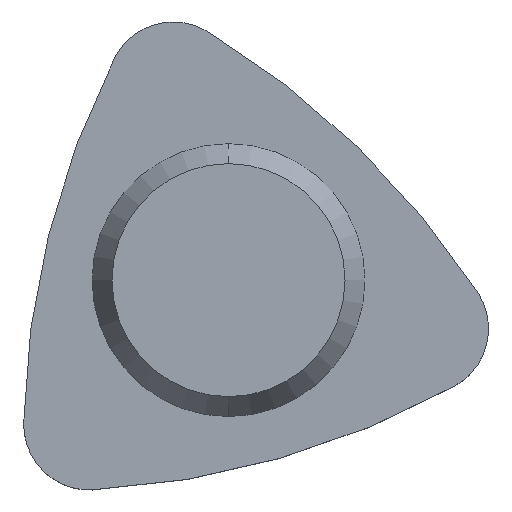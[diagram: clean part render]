
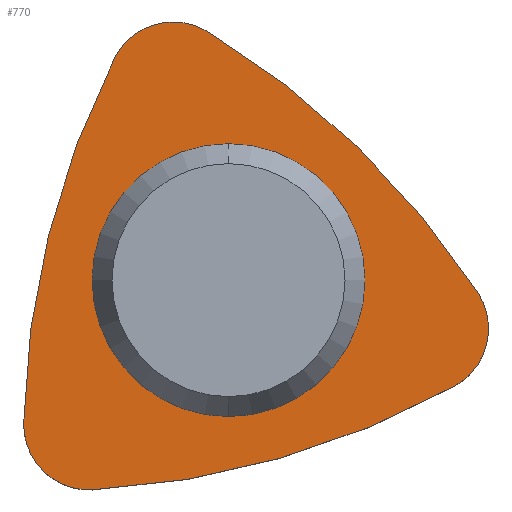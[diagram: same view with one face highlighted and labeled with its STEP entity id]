
A CAD part, top view. The second image highlights one B-rep face of the part: STEP entity #770.
In plain terms, the highlighted planar face has unit normal (0, 0, 1).
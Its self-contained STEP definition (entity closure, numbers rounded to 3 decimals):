
#10=CARTESIAN_POINT('',(-184.51,43.438,
-4.8));
#20=DIRECTION('',(0.,0.,1.));
#30=DIRECTION('',(1.,0.,0.));
#40=AXIS2_PLACEMENT_3D('',#10,#20,#30);
#50=PLANE('',#40);
#60=CARTESIAN_POINT('',(681.448,-169.904,
-4.8));
#70=DIRECTION('',(0.,0.,-1.));
#80=DIRECTION('',(1.,0.,0.));
#90=AXIS2_PLACEMENT_3D('',#60,#70,#80);
#100=CIRCLE('',#90,900.);
#110=CARTESIAN_POINT('',(-218.379,-152.296,
-4.8));
#120=VERTEX_POINT('',#110);
#130=CARTESIAN_POINT('',(-121.319,236.992,
-4.8));
#140=VERTEX_POINT('',#130);
#150=EDGE_CURVE('',#120,#140,#100,.T.);
#160=ORIENTED_EDGE('',*,*,#150,.F.);
#170=CARTESIAN_POINT('',(-58.882,205.344,
-4.8));
#180=DIRECTION('',(0.,0.,-1.));
#190=DIRECTION('',(1.,0.,0.));
#200=AXIS2_PLACEMENT_3D('',#170,#180,#190);
#210=CIRCLE('',#200,70.);
#220=CARTESIAN_POINT('',(-22.702,265.27,
-4.8));
#230=VERTEX_POINT('',#220);
#240=EDGE_CURVE('',#140,#230,#210,.T.);
#250=ORIENTED_EDGE('',*,*,#240,.F.);
#260=CARTESIAN_POINT('',(-487.866,-505.2,
-4.8));
#270=DIRECTION('',(0.,0.,-1.));
#280=DIRECTION('',(1.,0.,0.));
#290=AXIS2_PLACEMENT_3D('',#260,#270,#280);
#300=CIRCLE('',#290,900.);
#310=CARTESIAN_POINT('',(265.9,-13.431,
-4.8));
#320=VERTEX_POINT('',#310);
#330=EDGE_CURVE('',#230,#320,#300,.T.);
#340=ORIENTED_EDGE('',*,*,#330,.F.);
#350=CARTESIAN_POINT('',(207.274,-51.679,
-4.8));
#360=DIRECTION('',(0.,0.,-1.));
#370=DIRECTION('',(1.,0.,0.));
#380=AXIS2_PLACEMENT_3D('',#350,#360,#370);
#390=CIRCLE('',#380,70.);
#400=CARTESIAN_POINT('',(241.081,-112.974,
-4.8));
#410=VERTEX_POINT('',#400);
#420=EDGE_CURVE('',#320,#410,#390,.T.);
#430=ORIENTED_EDGE('',*,*,#420,.F.);
#440=CARTESIAN_POINT('',(-193.583,675.104,
-4.8));
#450=DIRECTION('',(0.,0.,-1.));
#460=DIRECTION('',(1.,0.,0.));
#470=AXIS2_PLACEMENT_3D('',#440,#450,#460);
#480=CIRCLE('',#470,900.);
#490=CARTESIAN_POINT('',(-144.581,-223.561,
-4.8));
#500=VERTEX_POINT('',#490);
#510=EDGE_CURVE('',#410,#500,#480,.T.);
#520=ORIENTED_EDGE('',*,*,#510,.F.);
#530=CARTESIAN_POINT('',(-148.393,-153.665,
-4.8));
#540=DIRECTION('',(0.,0.,-1.));
#550=DIRECTION('',(1.,0.,0.));
#560=AXIS2_PLACEMENT_3D('',#530,#540,#550);
#570=CIRCLE('',#560,70.);
#580=EDGE_CURVE('',#500,#120,#570,.T.);
#590=ORIENTED_EDGE('',*,*,#580,.F.);
#600=EDGE_LOOP('',(#590,#520,#430,#340,#250,#160));
#610=FACE_OUTER_BOUND('',#600,.T.);
#620=CARTESIAN_POINT('',(0.,0.,
-4.8));
#630=DIRECTION('',(0.,0.,-1.));
#640=DIRECTION('',(0.,-1.,0.));
#650=AXIS2_PLACEMENT_3D('',#620,#630,#640);
#660=CIRCLE('',#650,145.476);
#670=CARTESIAN_POINT('',(0.,-145.476,
-4.8));
#680=VERTEX_POINT('',#670);
#690=CARTESIAN_POINT('',(0.,145.476,
-4.8));
#700=VERTEX_POINT('',#690);
#710=EDGE_CURVE('',#680,#700,#660,.T.);
#720=ORIENTED_EDGE('',*,*,#710,.T.);
#730=EDGE_CURVE('',#700,#680,#660,.T.);
#740=ORIENTED_EDGE('',*,*,#730,.T.);
#750=EDGE_LOOP('',(#740,#720));
#760=FACE_BOUND('',#750,.T.);
#770=ADVANCED_FACE('',(#610,#760),#50,.T.);
